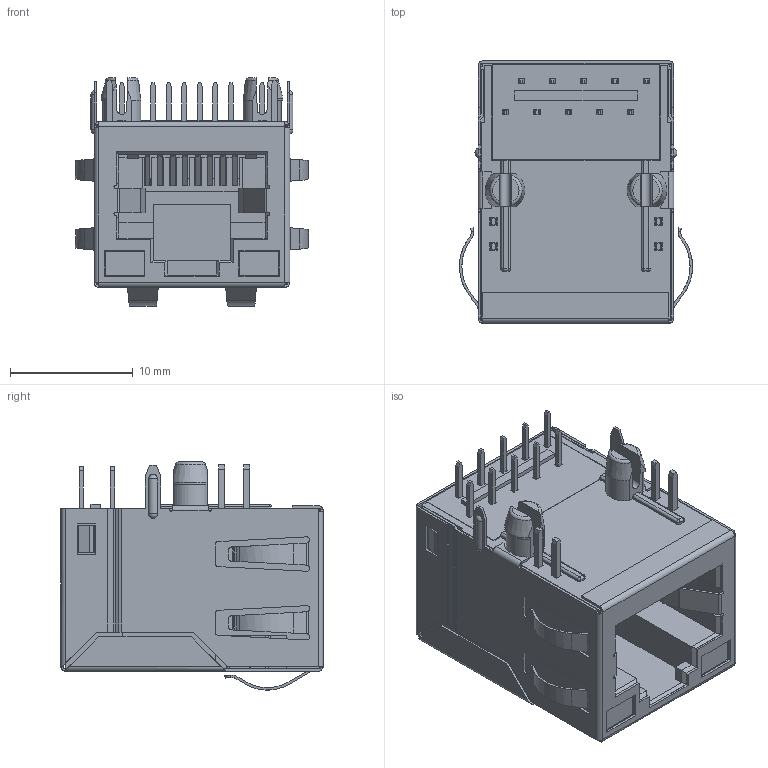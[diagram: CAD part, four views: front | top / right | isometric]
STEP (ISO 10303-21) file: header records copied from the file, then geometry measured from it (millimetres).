
FILE_DESCRIPTION((''),'2;1');
FILE_NAME('DGKYD211Q070FE5A4D_ASM','2023-06-13T13:52:54',('Administrator'),(''),'CREO PARAMETRIC BY PTC INC, 2019010','CREO PARAMETRIC BY PTC INC, 2019010','');
FILE_SCHEMA(('CONFIG_CONTROL_DESIGN'));
Length unit declared in the file: millimetre
Products named in the file (24): MSBR-23; MSBR-22; MSBR-21; MSBR-20; MSBR-19; MSBR-18; MSBR-17; MSBR-16; MSBR-15; MSBR-14; MSBR-13; MSBR-12; MSBR-11; MSBR-10; MSBR-9; MSBR-8; MSBR-7; MSBR-6; MSBR-5; MSBR-4; MSBR-3; MSBR-2; MSBR-1; DGKYD211Q070FE5A4D_ASM
Assembly tree (23 placements, depth 2):
  DGKYD211Q070FE5A4D_ASM
    MSBR-23
    MSBR-22
    MSBR-21
    MSBR-20
    MSBR-19
    MSBR-18
    MSBR-17
    MSBR-16
    MSBR-15
    MSBR-14
    MSBR-13
    MSBR-12
    MSBR-11
    MSBR-10
    MSBR-9
    MSBR-8
    MSBR-7
    MSBR-6
    MSBR-5
    MSBR-4
    MSBR-3
    MSBR-2
    MSBR-1
Bounding box: 18.98 x 21.35 x 18.57 mm (x, y, z)
Volume: 1908.1 mm3; surface area: 6980.5 mm2
Topology: 23 solids, 23 shells, 1292 faces, 3765 edges, 2504 vertices
Faces by surface type: plane 1013, cylinder 259, sphere 12, cone 4, torus 4
Entity records: 43401 total; most frequent: CARTESIAN_POINT 8628, ORIENTED_EDGE 7514, DIRECTION 6649, EDGE_CURVE 3757, VECTOR 3063, LINE 3063, VERTEX_POINT 2504, AXIS2_PLACEMENT_3D 1793
